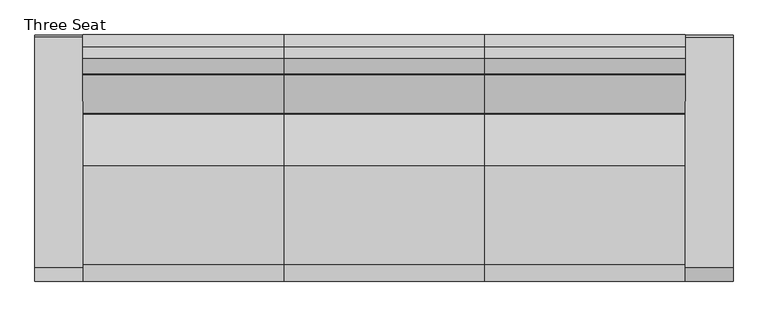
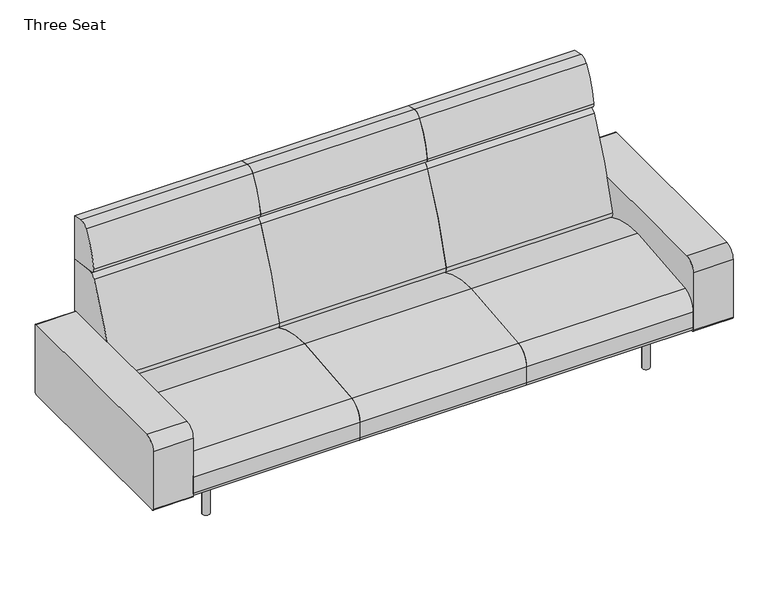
"""IFC4 building model written with IfcOpenShell, lengths in millimetres: furniture geometry, Coalesse_AM_Seating_LoungeChair_Sistema_LegBase_ThreeSeat : Three Seat."""

from ifc_helpers import new_model, si_unit, point, frame, frame_2d, origin, origin_with_axes, place, context, project, spatial, polyline, circle_curve, trimmed, segment, composite_curve, outline, extrude, source, transform, mapped, element, save


def three_seat_363ece87(model_context):
    return source(origin(), model_context, "Body", "SweptSolid", [
        extrude(outline(composite_curve([segment(polyline([(-461.2704381, 212.4103341), (-461.2704381, 487.0244726)]), True, "CONTINUOUS"), segment(trimmed(circle_curve(frame_2d((-410.4704381, 487.0244726)), 50.8), [point((-461.2704381, 487.0244726))], [point((-410.4704381, 537.8244726))], False, "CARTESIAN"), True, "CONTINUOUS"), segment(polyline([(-410.4704381, 537.8244726), (450.1139321, 537.8244726)]), True, "CONTINUOUS"), segment(trimmed(circle_curve(frame_2d((450.1139321, 530.2044726)), 7.62), [point((450.1139321, 537.8244726))], [point((457.7339321, 530.2044726))], False, "CARTESIAN"), True, "CONTINUOUS"), segment(polyline([(457.7339321, 530.2044726), (457.7339321, 217.4903341)]), True, "CONTINUOUS"), segment(trimmed(circle_curve(frame_2d((445.0339321, 217.4903341)), 12.7), [point((457.7339321, 217.4903341))], [point((445.0339321, 204.7903341))], False, "CARTESIAN"), True, "CONTINUOUS"), segment(polyline([(445.0339321, 204.7903341), (-453.6504381, 204.7903341)]), True, "CONTINUOUS"), segment(trimmed(circle_curve(frame_2d((-453.6504381, 212.4103341)), 7.62), [point((-453.6504381, 204.7903341))], [point((-461.2704381, 212.4103341))], False, "CARTESIAN"), True, "CONTINUOUS")], self_intersect=False)), frame((-554.3698424, 0.0, 0.0), z_axis=(1.0, 0.0, 0.0), x_axis=(0.0, 1.0, 0.0)), (0.0, 0.0, 1.0), 179.5663651),
        extrude(outline(composite_curve([segment(polyline([(459.4795619, 985.4592709), (459.4795619, 780.845009), (327.9700683, 799.327463)]), True, "CONTINUOUS"), segment(trimmed(circle_curve(frame_2d((330.6213159, 818.1920697)), 19.05), [point((327.9700683, 799.327463))], [point((311.7521971, 820.8110119))], False, "CARTESIAN"), True, "CONTINUOUS"), segment(trimmed(circle_curve(frame_2d((679.5815991, 769.7580741)), 371.3554516), [point((311.7521971, 820.8110119))], [point((372.1246101, 978.0249014))], False, "CARTESIAN"), True, "CONTINUOUS"), segment(trimmed(circle_curve(frame_2d((405.8944569, 955.1497055)), 40.7881985), [point((372.1246101, 978.0249014))], [point((414.3748002, 995.046584))], False, "CARTESIAN"), True, "CONTINUOUS"), segment(polyline([(414.3748002, 995.046584), (459.4795619, 985.4592709)]), True, "CONTINUOUS")], self_intersect=False)), frame((-374.8034773, 0.0, 0.0), z_axis=(1.0, 0.0, 0.0), x_axis=(0.0, 1.0, 0.0)), (0.0, 0.0, 1.0), 749.3),
        extrude(outline(composite_curve([segment(polyline([(459.4795619, 780.845009), (459.4795619, 228.1929806)]), True, "CONTINUOUS"), segment(trimmed(circle_curve(frame_2d((191.495971, 228.1929806)), 267.983591), [point((459.4795619, 228.1929806))], [point((458.9860775, 211.937276))], False, "CARTESIAN"), True, "CONTINUOUS"), segment(polyline([(458.9860775, 211.937276), (177.4990556, 364.1028799)]), True, "CONTINUOUS"), segment(trimmed(circle_curve(frame_2d((189.5778307, 386.4470781)), 25.4), [point((177.4990556, 364.1028799))], [point((164.9600055, 392.7018911))], False, "CARTESIAN"), True, "CONTINUOUS"), segment(trimmed(circle_curve(frame_2d((1918.112812, -52.7331923)), 1808.8552115), [point((164.9600055, 392.7018911))], [point((310.2880264, 776.0349508))], False, "CARTESIAN"), True, "CONTINUOUS"), segment(trimmed(circle_curve(frame_2d((344.1537133, 758.5785695)), 38.1), [point((310.2880264, 776.0349508))], [point((349.4562085, 796.3077829))], False, "CARTESIAN"), True, "CONTINUOUS"), segment(polyline([(349.4562085, 796.3077829), (459.4795619, 780.845009)]), True, "CONTINUOUS")], self_intersect=False)), frame((-374.8034773, 0.0, 0.0), z_axis=(1.0, 0.0, 0.0), x_axis=(0.0, 1.0, 0.0)), (0.0, 0.0, 1.0), 749.3),
        extrude(outline(composite_curve([segment(trimmed(circle_curve(frame_2d((-438.9184381, 226.822)), 22.352), [point((-438.9184381, 204.47))], [point((-461.2704381, 226.822))], False, "CARTESIAN"), True, "CONTINUOUS"), segment(polyline([(-461.2704381, 226.822), (-461.2704381, 301.4421993)]), True, "CONTINUOUS"), segment(trimmed(circle_curve(frame_2d((-385.0704381, 301.4421993)), 76.2), [point((-461.2704381, 301.4421993))], [point((-398.9277015, 376.3716077))], False, "CARTESIAN"), True, "CONTINUOUS"), segment(trimmed(circle_curve(frame_2d((2.2103559, -1792.6740646)), 2205.8265729), [point((-398.9277015, 376.3716077))], [point((-31.1968175, 412.8995185))], False, "CARTESIAN"), True, "CONTINUOUS"), segment(trimmed(circle_curve(frame_2d((-24.5128424, -28.3829182)), 441.333054), [point((-31.1968175, 412.8995185))], [point((184.5757008, 360.2774035))], False, "CARTESIAN"), True, "CONTINUOUS"), segment(polyline([(184.5757008, 360.2774035), (458.9860775, 211.937276)]), True, "CONTINUOUS"), segment(trimmed(circle_curve(frame_2d((442.3266309, 226.7871991)), 22.3171991), [point((458.9860775, 211.937276))], [point((442.3266309, 204.47))], False, "CARTESIAN"), True, "CONTINUOUS"), segment(polyline([(442.3266309, 204.47), (-438.9184381, 204.47)]), True, "CONTINUOUS")], self_intersect=False)), frame((-374.8034773, 0.0, 0.0), z_axis=(1.0, 0.0, 0.0), x_axis=(0.0, 1.0, 0.0)), (0.0, 0.0, 1.0), 749.3),
        extrude(outline(composite_curve([segment(polyline([(459.4795619, 985.4592709), (459.4795619, 780.845009), (327.9700683, 799.327463)]), True, "CONTINUOUS"), segment(trimmed(circle_curve(frame_2d((330.6213159, 818.1920697)), 19.05), [point((327.9700683, 799.327463))], [point((311.7521971, 820.8110119))], False, "CARTESIAN"), True, "CONTINUOUS"), segment(trimmed(circle_curve(frame_2d((679.5815991, 769.7580741)), 371.3554516), [point((311.7521971, 820.8110119))], [point((372.1246101, 978.0249014))], False, "CARTESIAN"), True, "CONTINUOUS"), segment(trimmed(circle_curve(frame_2d((405.8944569, 955.1497055)), 40.7881985), [point((372.1246101, 978.0249014))], [point((414.3748002, 995.046584))], False, "CARTESIAN"), True, "CONTINUOUS"), segment(polyline([(414.3748002, 995.046584), (459.4795619, 985.4592709)]), True, "CONTINUOUS")], self_intersect=False)), frame((374.4965227, 0.0, 0.0), z_axis=(1.0, 0.0, 0.0), x_axis=(0.0, 1.0, 0.0)), (0.0, 0.0, 1.0), 749.3),
        extrude(outline(composite_curve([segment(polyline([(459.4795619, 780.845009), (459.4795619, 228.1929806)]), True, "CONTINUOUS"), segment(trimmed(circle_curve(frame_2d((191.495971, 228.1929806)), 267.983591), [point((459.4795619, 228.1929806))], [point((458.9860775, 211.937276))], False, "CARTESIAN"), True, "CONTINUOUS"), segment(polyline([(458.9860775, 211.937276), (177.4990556, 364.1028799)]), True, "CONTINUOUS"), segment(trimmed(circle_curve(frame_2d((189.5778307, 386.4470781)), 25.4), [point((177.4990556, 364.1028799))], [point((164.9600055, 392.7018911))], False, "CARTESIAN"), True, "CONTINUOUS"), segment(trimmed(circle_curve(frame_2d((1918.112812, -52.7331923)), 1808.8552115), [point((164.9600055, 392.7018911))], [point((310.2880264, 776.0349508))], False, "CARTESIAN"), True, "CONTINUOUS"), segment(trimmed(circle_curve(frame_2d((344.1537133, 758.5785695)), 38.1), [point((310.2880264, 776.0349508))], [point((349.4562085, 796.3077829))], False, "CARTESIAN"), True, "CONTINUOUS"), segment(polyline([(349.4562085, 796.3077829), (459.4795619, 780.845009)]), True, "CONTINUOUS")], self_intersect=False)), frame((374.4965227, 0.0, 0.0), z_axis=(1.0, 0.0, 0.0), x_axis=(0.0, 1.0, 0.0)), (0.0, 0.0, 1.0), 749.3),
        extrude(outline(composite_curve([segment(trimmed(circle_curve(frame_2d((-438.9184381, 226.822)), 22.352), [point((-438.9184381, 204.47))], [point((-461.2704381, 226.822))], False, "CARTESIAN"), True, "CONTINUOUS"), segment(polyline([(-461.2704381, 226.822), (-461.2704381, 301.4421993)]), True, "CONTINUOUS"), segment(trimmed(circle_curve(frame_2d((-385.0704381, 301.4421993)), 76.2), [point((-461.2704381, 301.4421993))], [point((-398.9277015, 376.3716077))], False, "CARTESIAN"), True, "CONTINUOUS"), segment(trimmed(circle_curve(frame_2d((2.2103559, -1792.6740646)), 2205.8265729), [point((-398.9277015, 376.3716077))], [point((-31.1968175, 412.8995185))], False, "CARTESIAN"), True, "CONTINUOUS"), segment(trimmed(circle_curve(frame_2d((-24.5128424, -28.3829182)), 441.333054), [point((-31.1968175, 412.8995185))], [point((184.5757008, 360.2774035))], False, "CARTESIAN"), True, "CONTINUOUS"), segment(polyline([(184.5757008, 360.2774035), (458.9860775, 211.937276)]), True, "CONTINUOUS"), segment(trimmed(circle_curve(frame_2d((442.3266309, 226.7871991)), 22.3171991), [point((458.9860775, 211.937276))], [point((442.3266309, 204.47))], False, "CARTESIAN"), True, "CONTINUOUS"), segment(polyline([(442.3266309, 204.47), (-438.9184381, 204.47)]), True, "CONTINUOUS")], self_intersect=False)), frame((374.4965227, 0.0, 0.0), z_axis=(1.0, 0.0, 0.0), x_axis=(0.0, 1.0, 0.0)), (0.0, 0.0, 1.0), 749.3),
        extrude(outline(composite_curve([segment(polyline([(-461.2704381, 212.4103341), (-461.2704381, 487.0244726)]), True, "CONTINUOUS"), segment(trimmed(circle_curve(frame_2d((-410.4704381, 487.0244726)), 50.8), [point((-461.2704381, 487.0244726))], [point((-410.4704381, 537.8244726))], False, "CARTESIAN"), True, "CONTINUOUS"), segment(polyline([(-410.4704381, 537.8244726), (450.1139321, 537.8244726)]), True, "CONTINUOUS"), segment(trimmed(circle_curve(frame_2d((450.1139321, 530.2044726)), 7.62), [point((450.1139321, 537.8244726))], [point((457.7339321, 530.2044726))], False, "CARTESIAN"), True, "CONTINUOUS"), segment(polyline([(457.7339321, 530.2044726), (457.7339321, 217.4903341)]), True, "CONTINUOUS"), segment(trimmed(circle_curve(frame_2d((445.0339321, 217.4903341)), 12.7), [point((457.7339321, 217.4903341))], [point((445.0339321, 204.7903341))], False, "CARTESIAN"), True, "CONTINUOUS"), segment(polyline([(445.0339321, 204.7903341), (-453.6504381, 204.7903341)]), True, "CONTINUOUS"), segment(trimmed(circle_curve(frame_2d((-453.6504381, 212.4103341)), 7.62), [point((-453.6504381, 204.7903341))], [point((-461.2704381, 212.4103341))], False, "CARTESIAN"), True, "CONTINUOUS")], self_intersect=False)), frame((1873.0965227, 0.0, 0.0), z_axis=(1.0, 0.0, 0.0), x_axis=(0.0, 1.0, 0.0)), (0.0, 0.0, 1.0), 179.5663651),
        extrude(outline(composite_curve([segment(polyline([(459.4795619, 985.4592709), (459.4795619, 780.845009), (327.9700683, 799.327463)]), True, "CONTINUOUS"), segment(trimmed(circle_curve(frame_2d((330.6213159, 818.1920697)), 19.05), [point((327.9700683, 799.327463))], [point((311.7521971, 820.8110119))], False, "CARTESIAN"), True, "CONTINUOUS"), segment(trimmed(circle_curve(frame_2d((679.5815991, 769.7580741)), 371.3554516), [point((311.7521971, 820.8110119))], [point((372.1246101, 978.0249014))], False, "CARTESIAN"), True, "CONTINUOUS"), segment(trimmed(circle_curve(frame_2d((405.8944569, 955.1497055)), 40.7881985), [point((372.1246101, 978.0249014))], [point((414.3748002, 995.046584))], False, "CARTESIAN"), True, "CONTINUOUS"), segment(polyline([(414.3748002, 995.046584), (459.4795619, 985.4592709)]), True, "CONTINUOUS")], self_intersect=False)), frame((1123.7965227, 0.0, 0.0), z_axis=(1.0, 0.0, 0.0), x_axis=(0.0, 1.0, 0.0)), (0.0, 0.0, 1.0), 749.3),
        extrude(outline(composite_curve([segment(polyline([(459.4795619, 780.845009), (459.4795619, 228.1929806)]), True, "CONTINUOUS"), segment(trimmed(circle_curve(frame_2d((191.495971, 228.1929806)), 267.983591), [point((459.4795619, 228.1929806))], [point((458.9860775, 211.937276))], False, "CARTESIAN"), True, "CONTINUOUS"), segment(polyline([(458.9860775, 211.937276), (177.4990556, 364.1028799)]), True, "CONTINUOUS"), segment(trimmed(circle_curve(frame_2d((189.5778307, 386.4470781)), 25.4), [point((177.4990556, 364.1028799))], [point((164.9600055, 392.7018911))], False, "CARTESIAN"), True, "CONTINUOUS"), segment(trimmed(circle_curve(frame_2d((1918.112812, -52.7331923)), 1808.8552115), [point((164.9600055, 392.7018911))], [point((310.2880264, 776.0349508))], False, "CARTESIAN"), True, "CONTINUOUS"), segment(trimmed(circle_curve(frame_2d((344.1537133, 758.5785695)), 38.1), [point((310.2880264, 776.0349508))], [point((349.4562085, 796.3077829))], False, "CARTESIAN"), True, "CONTINUOUS"), segment(polyline([(349.4562085, 796.3077829), (459.4795619, 780.845009)]), True, "CONTINUOUS")], self_intersect=False)), frame((1123.7965227, 0.0, 0.0), z_axis=(1.0, 0.0, 0.0), x_axis=(0.0, 1.0, 0.0)), (0.0, 0.0, 1.0), 749.3),
        extrude(outline(composite_curve([segment(trimmed(circle_curve(frame_2d((-438.9184381, 226.822)), 22.352), [point((-438.9184381, 204.47))], [point((-461.2704381, 226.822))], False, "CARTESIAN"), True, "CONTINUOUS"), segment(polyline([(-461.2704381, 226.822), (-461.2704381, 301.4421993)]), True, "CONTINUOUS"), segment(trimmed(circle_curve(frame_2d((-385.0704381, 301.4421993)), 76.2), [point((-461.2704381, 301.4421993))], [point((-398.9277015, 376.3716077))], False, "CARTESIAN"), True, "CONTINUOUS"), segment(trimmed(circle_curve(frame_2d((2.2103559, -1792.6740646)), 2205.8265729), [point((-398.9277015, 376.3716077))], [point((-31.1968175, 412.8995185))], False, "CARTESIAN"), True, "CONTINUOUS"), segment(trimmed(circle_curve(frame_2d((-24.5128424, -28.3829182)), 441.333054), [point((-31.1968175, 412.8995185))], [point((184.5757008, 360.2774035))], False, "CARTESIAN"), True, "CONTINUOUS"), segment(polyline([(184.5757008, 360.2774035), (458.9860775, 211.937276)]), True, "CONTINUOUS"), segment(trimmed(circle_curve(frame_2d((442.3266309, 226.7871991)), 22.3171991), [point((458.9860775, 211.937276))], [point((442.3266309, 204.47))], False, "CARTESIAN"), True, "CONTINUOUS"), segment(polyline([(442.3266309, 204.47), (-438.9184381, 204.47)]), True, "CONTINUOUS")], self_intersect=False)), frame((1123.7965227, 0.0, 0.0), z_axis=(1.0, 0.0, 0.0), x_axis=(0.0, 1.0, 0.0)), (0.0, 0.0, 1.0), 749.3),
        extrude(outline(composite_curve([segment(trimmed(circle_curve(frame_2d((1738.4765227, 335.9943389)), 6.096), [point((1744.5725227, 335.9943389))], [point((1732.3805227, 335.9943389))], False, "CARTESIAN"), True, "CONTINUOUS"), segment(trimmed(circle_curve(frame_2d((1738.4765227, 335.9943389)), 6.096), [point((1732.3805227, 335.9943389))], [point((1744.5725227, 335.9943389))], False, "CARTESIAN"), True, "CONTINUOUS")], self_intersect=False)), origin_with_axes(), (0.0, 0.0, 1.0), 4.3662291),
        extrude(outline(composite_curve([segment(trimmed(circle_curve(frame_2d((1738.4765227, -327.2630889)), 6.096), [point((1744.5725227, -327.2630889))], [point((1732.3805227, -327.2630889))], False, "CARTESIAN"), True, "CONTINUOUS"), segment(trimmed(circle_curve(frame_2d((1738.4765227, -327.2630889)), 6.096), [point((1732.3805227, -327.2630889))], [point((1744.5725227, -327.2630889))], False, "CARTESIAN"), True, "CONTINUOUS")], self_intersect=False)), origin_with_axes(), (0.0, 0.0, 1.0), 4.3662291),
        extrude(outline(composite_curve([segment(polyline([(157.0399209, 1751.056375), (201.7356243, 1751.056375)]), True, "CONTINUOUS"), segment(trimmed(circle_curve(frame_2d((201.7356243, 1748.008375)), 3.048), [point((201.7356243, 1751.056375))], [point((204.7836243, 1748.008375))], False, "CARTESIAN"), True, "CONTINUOUS"), segment(polyline([(204.7836243, 1748.008375), (204.7836243, 1728.666199)]), True, "CONTINUOUS"), segment(trimmed(circle_curve(frame_2d((201.7356243, 1728.666199)), 3.048), [point((204.7836243, 1728.666199))], [point((201.7356243, 1725.618199))], False, "CARTESIAN"), True, "CONTINUOUS"), segment(polyline([(201.7356243, 1725.618199), (157.1249936, 1725.618199)]), True, "CONTINUOUS"), segment(trimmed(circle_curve(frame_2d((157.1249936, 1728.7512718)), 3.1330728), [point((157.1249936, 1725.618199))], [point((153.9919209, 1728.7512718))], False, "CARTESIAN"), True, "CONTINUOUS"), segment(polyline([(153.9919209, 1728.7512718), (153.9919209, 1748.008375)]), True, "CONTINUOUS"), segment(trimmed(circle_curve(frame_2d((157.0399209, 1748.008375)), 3.048), [point((153.9919209, 1748.008375))], [point((157.0399209, 1751.056375))], False, "CARTESIAN"), True, "CONTINUOUS")], self_intersect=False)), frame((0.0, 222.3519802, 0.0), z_axis=(0.0, 1.0, 0.0), x_axis=(0.0, 0.0, 1.0)), (0.0, 0.0, 1.0), 92.6273161),
        extrude(outline(composite_curve([segment(polyline([(157.0399209, 1751.056375), (201.7356243, 1751.056375)]), True, "CONTINUOUS"), segment(trimmed(circle_curve(frame_2d((201.7356243, 1748.008375)), 3.048), [point((201.7356243, 1751.056375))], [point((204.7836243, 1748.008375))], False, "CARTESIAN"), True, "CONTINUOUS"), segment(polyline([(204.7836243, 1748.008375), (204.7836243, 1728.666199)]), True, "CONTINUOUS"), segment(trimmed(circle_curve(frame_2d((201.7356243, 1728.666199)), 3.048), [point((204.7836243, 1728.666199))], [point((201.7356243, 1725.618199))], False, "CARTESIAN"), True, "CONTINUOUS"), segment(polyline([(201.7356243, 1725.618199), (157.1249936, 1725.618199)]), True, "CONTINUOUS"), segment(trimmed(circle_curve(frame_2d((157.1249936, 1728.7512718)), 3.1330728), [point((157.1249936, 1725.618199))], [point((153.9919209, 1728.7512718))], False, "CARTESIAN"), True, "CONTINUOUS"), segment(polyline([(153.9919209, 1728.7512718), (153.9919209, 1748.008375)]), True, "CONTINUOUS"), segment(trimmed(circle_curve(frame_2d((157.0399209, 1748.008375)), 3.048), [point((153.9919209, 1748.008375))], [point((157.0399209, 1751.056375))], False, "CARTESIAN"), True, "CONTINUOUS")], self_intersect=False)), frame((0.0, -314.9792963, 0.0), z_axis=(0.0, 1.0, 0.0), x_axis=(0.0, 0.0, 1.0)), (0.0, 0.0, 1.0), 92.6273161),
        extrude(outline(composite_curve([segment(trimmed(circle_curve(frame_2d((176.3356606, 1715.8259944)), 3.048), [point((179.3836606, 1715.8259944))], [point((176.3356606, 1712.7779944))], False, "CARTESIAN"), True, "CONTINUOUS"), segment(polyline([(176.3356606, 1712.7779944), (157.0399209, 1712.7779944)]), True, "CONTINUOUS"), segment(trimmed(circle_curve(frame_2d((157.0399209, 1715.8259944)), 3.048), [point((157.0399209, 1712.7779944))], [point((153.9919209, 1715.8259944))], False, "CARTESIAN"), True, "CONTINUOUS"), segment(polyline([(153.9919209, 1715.8259944), (153.9919209, 1760.5135501)]), True, "CONTINUOUS"), segment(trimmed(circle_curve(frame_2d((157.056462, 1760.5135501)), 3.0645412), [point((153.9919209, 1760.5135501))], [point((157.056462, 1763.5780913))], False, "CARTESIAN"), True, "CONTINUOUS"), segment(polyline([(157.056462, 1763.5780913), (176.3356606, 1763.5780913)]), True, "CONTINUOUS"), segment(trimmed(circle_curve(frame_2d((176.3356606, 1760.5300913)), 3.048), [point((176.3356606, 1763.5780913))], [point((179.3836606, 1760.5300913))], False, "CARTESIAN"), True, "CONTINUOUS"), segment(polyline([(179.3836606, 1760.5300913), (179.3836606, 1715.8259944)]), True, "CONTINUOUS")], self_intersect=False)), frame((0.0, -222.3519802, 0.0), z_axis=(0.0, 1.0, 0.0), x_axis=(0.0, 0.0, 1.0)), (0.0, 0.0, 1.0), 444.7039604),
        extrude(outline(composite_curve([segment(trimmed(circle_curve(frame_2d((1738.4765227, 332.3095741)), 16.51), [point((1754.9865227, 332.3095741))], [point((1721.9665227, 332.3095741))], False, "CARTESIAN"), True, "CONTINUOUS"), segment(trimmed(circle_curve(frame_2d((1738.4765227, 332.3095741)), 16.51), [point((1721.9665227, 332.3095741))], [point((1754.9865227, 332.3095741))], False, "CARTESIAN"), True, "CONTINUOUS")], self_intersect=False)), frame((0.0, 0.0, 4.3662291), z_axis=(0.0, 0.0, 1.0), x_axis=(1.0, 0.0, 0.0)), (0.0, 0.0, 1.0), 200.1037709),
        extrude(outline(composite_curve([segment(trimmed(circle_curve(frame_2d((1738.0796477, -327.5470741)), 16.51), [point((1754.5896477, -327.5470741))], [point((1721.5696477, -327.5470741))], False, "CARTESIAN"), True, "CONTINUOUS"), segment(trimmed(circle_curve(frame_2d((1738.0796477, -327.5470741)), 16.51), [point((1721.5696477, -327.5470741))], [point((1754.5896477, -327.5470741))], False, "CARTESIAN"), True, "CONTINUOUS")], self_intersect=False)), frame((0.0, 0.0, 4.3662291), z_axis=(0.0, 0.0, 1.0), x_axis=(1.0, 0.0, 0.0)), (0.0, 0.0, 1.0), 200.1037709),
        extrude(outline(composite_curve([segment(trimmed(circle_curve(frame_2d((-240.1834773, 335.9943389)), 6.096), [point((-246.2794773, 335.9943389))], [point((-234.0874773, 335.9943389))], False, "CARTESIAN"), True, "CONTINUOUS"), segment(trimmed(circle_curve(frame_2d((-240.1834773, 335.9943389)), 6.096), [point((-234.0874773, 335.9943389))], [point((-246.2794773, 335.9943389))], False, "CARTESIAN"), True, "CONTINUOUS")], self_intersect=False)), origin_with_axes(), (0.0, 0.0, 1.0), 4.3662291),
        extrude(outline(composite_curve([segment(trimmed(circle_curve(frame_2d((-240.1834773, -327.2630889)), 6.096), [point((-246.2794773, -327.2630889))], [point((-234.0874773, -327.2630889))], False, "CARTESIAN"), True, "CONTINUOUS"), segment(trimmed(circle_curve(frame_2d((-240.1834773, -327.2630889)), 6.096), [point((-234.0874773, -327.2630889))], [point((-246.2794773, -327.2630889))], False, "CARTESIAN"), True, "CONTINUOUS")], self_intersect=False)), origin_with_axes(), (0.0, 0.0, 1.0), 4.3662291),
        extrude(outline(composite_curve([segment(trimmed(circle_curve(frame_2d((157.0399209, -249.7153296)), 3.048), [point((157.0399209, -252.7633296))], [point((153.9919209, -249.7153296))], False, "CARTESIAN"), True, "CONTINUOUS"), segment(polyline([(153.9919209, -249.7153296), (153.9919209, -230.4582264)]), True, "CONTINUOUS"), segment(trimmed(circle_curve(frame_2d((157.1249936, -230.4582264)), 3.1330728), [point((153.9919209, -230.4582264))], [point((157.1249936, -227.3251537))], False, "CARTESIAN"), True, "CONTINUOUS"), segment(polyline([(157.1249936, -227.3251537), (201.7356243, -227.3251537)]), True, "CONTINUOUS"), segment(trimmed(circle_curve(frame_2d((201.7356243, -230.3731537)), 3.048), [point((201.7356243, -227.3251537))], [point((204.7836243, -230.3731537))], False, "CARTESIAN"), True, "CONTINUOUS"), segment(polyline([(204.7836243, -230.3731537), (204.7836243, -249.7153296)]), True, "CONTINUOUS"), segment(trimmed(circle_curve(frame_2d((201.7356243, -249.7153296)), 3.048), [point((204.7836243, -249.7153296))], [point((201.7356243, -252.7633296))], False, "CARTESIAN"), True, "CONTINUOUS"), segment(polyline([(201.7356243, -252.7633296), (157.0399209, -252.7633296)]), True, "CONTINUOUS")], self_intersect=False)), frame((0.0, 222.3519802, 0.0), z_axis=(0.0, 1.0, 0.0), x_axis=(0.0, 0.0, 1.0)), (0.0, 0.0, 1.0), 92.6273161),
        extrude(outline(composite_curve([segment(trimmed(circle_curve(frame_2d((157.0399209, -249.7153296)), 3.048), [point((157.0399209, -252.7633296))], [point((153.9919209, -249.7153296))], False, "CARTESIAN"), True, "CONTINUOUS"), segment(polyline([(153.9919209, -249.7153296), (153.9919209, -230.4582264)]), True, "CONTINUOUS"), segment(trimmed(circle_curve(frame_2d((157.1249936, -230.4582264)), 3.1330728), [point((153.9919209, -230.4582264))], [point((157.1249936, -227.3251537))], False, "CARTESIAN"), True, "CONTINUOUS"), segment(polyline([(157.1249936, -227.3251537), (201.7356243, -227.3251537)]), True, "CONTINUOUS"), segment(trimmed(circle_curve(frame_2d((201.7356243, -230.3731537)), 3.048), [point((201.7356243, -227.3251537))], [point((204.7836243, -230.3731537))], False, "CARTESIAN"), True, "CONTINUOUS"), segment(polyline([(204.7836243, -230.3731537), (204.7836243, -249.7153296)]), True, "CONTINUOUS"), segment(trimmed(circle_curve(frame_2d((201.7356243, -249.7153296)), 3.048), [point((204.7836243, -249.7153296))], [point((201.7356243, -252.7633296))], False, "CARTESIAN"), True, "CONTINUOUS"), segment(polyline([(201.7356243, -252.7633296), (157.0399209, -252.7633296)]), True, "CONTINUOUS")], self_intersect=False)), frame((0.0, -314.9792963, 0.0), z_axis=(0.0, 1.0, 0.0), x_axis=(0.0, 0.0, 1.0)), (0.0, 0.0, 1.0), 92.6273161),
        extrude(outline(composite_curve([segment(polyline([(179.3836606, -217.532949), (179.3836606, -262.2370459)]), True, "CONTINUOUS"), segment(trimmed(circle_curve(frame_2d((176.3356606, -262.2370459)), 3.048), [point((179.3836606, -262.2370459))], [point((176.3356606, -265.2850459))], False, "CARTESIAN"), True, "CONTINUOUS"), segment(polyline([(176.3356606, -265.2850459), (157.056462, -265.2850459)]), True, "CONTINUOUS"), segment(trimmed(circle_curve(frame_2d((157.056462, -262.2205047)), 3.0645412), [point((157.056462, -265.2850459))], [point((153.9919209, -262.2205047))], False, "CARTESIAN"), True, "CONTINUOUS"), segment(polyline([(153.9919209, -262.2205047), (153.9919209, -217.532949)]), True, "CONTINUOUS"), segment(trimmed(circle_curve(frame_2d((157.0399209, -217.532949)), 3.048), [point((153.9919209, -217.532949))], [point((157.0399209, -214.484949))], False, "CARTESIAN"), True, "CONTINUOUS"), segment(polyline([(157.0399209, -214.484949), (176.3356606, -214.484949)]), True, "CONTINUOUS"), segment(trimmed(circle_curve(frame_2d((176.3356606, -217.532949)), 3.048), [point((176.3356606, -214.484949))], [point((179.3836606, -217.532949))], False, "CARTESIAN"), True, "CONTINUOUS")], self_intersect=False)), frame((0.0, -222.3519802, 0.0), z_axis=(0.0, 1.0, 0.0), x_axis=(0.0, 0.0, 1.0)), (0.0, 0.0, 1.0), 444.7039604),
        extrude(outline(composite_curve([segment(trimmed(circle_curve(frame_2d((-240.1834773, 332.3095741)), 16.51), [point((-256.6934773, 332.3095741))], [point((-223.6734773, 332.3095741))], False, "CARTESIAN"), True, "CONTINUOUS"), segment(trimmed(circle_curve(frame_2d((-240.1834773, 332.3095741)), 16.51), [point((-223.6734773, 332.3095741))], [point((-256.6934773, 332.3095741))], False, "CARTESIAN"), True, "CONTINUOUS")], self_intersect=False)), frame((0.0, 0.0, 4.3662291), z_axis=(0.0, 0.0, 1.0), x_axis=(1.0, 0.0, 0.0)), (0.0, 0.0, 1.0), 200.1037709),
        extrude(outline(composite_curve([segment(trimmed(circle_curve(frame_2d((-239.7866023, -327.5470741)), 16.51), [point((-256.2966023, -327.5470741))], [point((-223.2766023, -327.5470741))], False, "CARTESIAN"), True, "CONTINUOUS"), segment(trimmed(circle_curve(frame_2d((-239.7866023, -327.5470741)), 16.51), [point((-223.2766023, -327.5470741))], [point((-256.2966023, -327.5470741))], False, "CARTESIAN"), True, "CONTINUOUS")], self_intersect=False)), frame((0.0, 0.0, 4.3662291), z_axis=(0.0, 0.0, 1.0), x_axis=(1.0, 0.0, 0.0)), (0.0, 0.0, 1.0), 200.1037709),
    ])


if __name__ == "__main__":
    model = new_model("IFC4")
    model_context = context("Model", 3, world=origin())
    ifc_project = project(units=[si_unit("LENGTHUNIT", "METRE", prefix="MILLI")], contexts=[model_context])
    site = spatial("IfcSite", under=ifc_project)
    building = spatial("IfcBuilding", under=site)
    placement = place(None, origin())
    three_seat_shape = three_seat_363ece87(model_context)
    element("IfcFurniture", 1, ObjectType="Coalesse_AM_Seating_LoungeChair_Sistema_LegBase_ThreeSeat : Three Seat", at=placement, inside=building, context=model_context, shape_type="MappedRepresentation", body=[
        mapped(three_seat_shape, transform((0.0, 0.0, 0.0), x_axis=(1.0, 0.0, 0.0), y_axis=(0.0, 1.0, 0.0), z_axis=(0.0, 0.0, 1.0))),
    ])
    save(model, "model.ifc")
